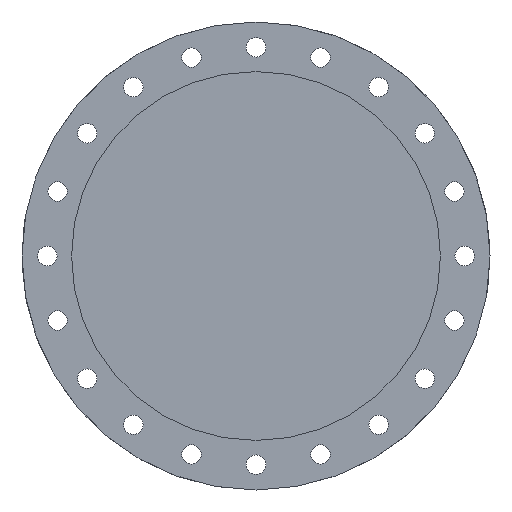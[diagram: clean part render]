
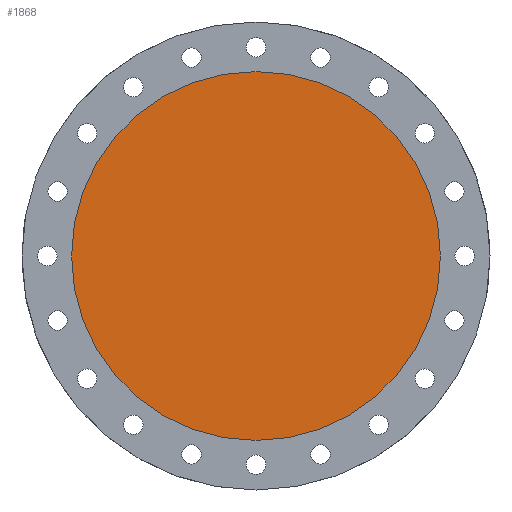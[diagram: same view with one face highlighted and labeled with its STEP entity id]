
A CAD part, front view. The second image highlights one B-rep face of the part: STEP entity #1868.
In plain terms, the highlighted planar face has unit normal (0, -1, 0).
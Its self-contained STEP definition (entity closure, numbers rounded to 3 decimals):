
#15 = ORIENTED_EDGE ( 'NONE', *, *, #765, .T. ) ;
#286 = DIRECTION ( 'NONE',  ( 0., 1., 0. ) ) ;
#486 = EDGE_CURVE ( 'NONE', #539, #785, #1847, .T. ) ;
#539 = VERTEX_POINT ( 'NONE', #2125 ) ;
#648 = FACE_OUTER_BOUND ( 'NONE', #1369, .T. ) ;
#675 = DIRECTION ( 'NONE',  ( 0., 0., 1. ) ) ;
#765 = EDGE_CURVE ( 'NONE', #785, #539, #1431, .T. ) ;
#785 = VERTEX_POINT ( 'NONE', #1840 ) ;
#787 = AXIS2_PLACEMENT_3D ( 'NONE', #2264, #1172, #1488 ) ;
#824 = AXIS2_PLACEMENT_3D ( 'NONE', #1791, #286, #675 ) ;
#920 = DIRECTION ( 'NONE',  ( 0., -1., 0. ) ) ;
#1172 = DIRECTION ( 'NONE',  ( 0., -1., 0. ) ) ;
#1250 = CARTESIAN_POINT ( 'NONE',  ( 0., 6.25, 0. ) ) ;
#1253 = ORIENTED_EDGE ( 'NONE', *, *, #486, .T. ) ;
#1262 = DIRECTION ( 'NONE',  ( 0., 0., 1. ) ) ;
#1369 = EDGE_LOOP ( 'NONE', ( #15, #1253 ) ) ;
#1431 = CIRCLE ( 'NONE', #2110, 85.2 ) ;
#1488 = DIRECTION ( 'NONE',  ( 0., 0., 1. ) ) ;
#1791 = CARTESIAN_POINT ( 'NONE',  ( 0., 6.25, 85.75 ) ) ;
#1840 = CARTESIAN_POINT ( 'NONE',  ( 0., 6.25, 85.2 ) ) ;
#1847 = CIRCLE ( 'NONE', #787, 85.2 ) ;
#1868 = ADVANCED_FACE ( 'NONE', ( #648 ), #1982, .F. ) ;
#1982 = PLANE ( 'NONE',  #824 ) ;
#2110 = AXIS2_PLACEMENT_3D ( 'NONE', #1250, #920, #1262 ) ;
#2125 = CARTESIAN_POINT ( 'NONE',  ( 0., 6.25, -85.2 ) ) ;
#2264 = CARTESIAN_POINT ( 'NONE',  ( 0., 6.25, 0. ) ) ;
